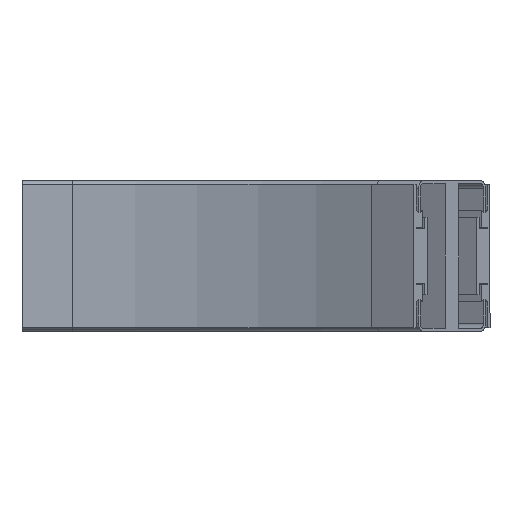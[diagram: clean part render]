
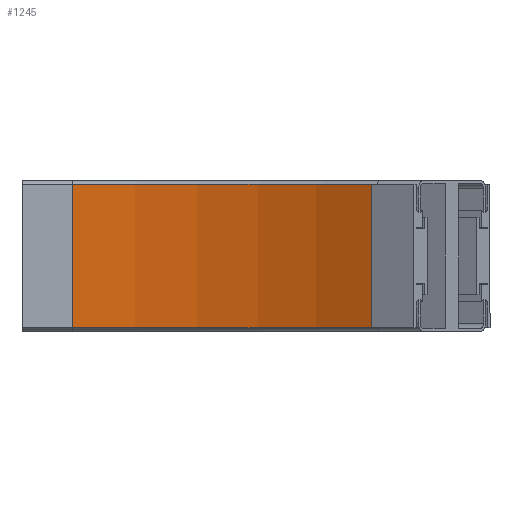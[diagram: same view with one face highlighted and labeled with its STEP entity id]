
A CAD part, front view. The second image highlights one B-rep face of the part: STEP entity #1245.
In plain terms, the highlighted cylindrical face has radius 443.5 mm (diameter 887 mm), a partial arc.
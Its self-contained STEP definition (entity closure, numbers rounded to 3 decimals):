
#95 = VECTOR ( 'NONE', #1447, 1000. ) ;
#249 = FACE_OUTER_BOUND ( 'NONE', #5569, .T. ) ;
#405 = AXIS2_PLACEMENT_3D ( 'NONE', #5106, #2427, #3330 ) ;
#449 = ORIENTED_EDGE ( 'NONE', *, *, #774, .T. ) ;
#621 = DIRECTION ( 'NONE',  ( 1., 0., 0. ) ) ;
#774 = EDGE_CURVE ( 'NONE', #2197, #2886, #3718, .T. ) ;
#918 = CARTESIAN_POINT ( 'NONE',  ( 40., -500., 57.15 ) ) ;
#1015 = CARTESIAN_POINT ( 'NONE',  ( 40., -56.5, 0. ) ) ;
#1245 = ADVANCED_FACE ( 'NONE', ( #249 ), #4685, .F. ) ;
#1285 = CARTESIAN_POINT ( 'NONE',  ( 40., -500., 0. ) ) ;
#1447 = DIRECTION ( 'NONE',  ( 0., 0., -1. ) ) ;
#1501 = DIRECTION ( 'NONE',  ( 0., 0., 1. ) ) ;
#1914 = EDGE_CURVE ( 'NONE', #2951, #2197, #2222, .T. ) ;
#2116 = DIRECTION ( 'NONE',  ( 0., 0., 1. ) ) ;
#2197 = VERTEX_POINT ( 'NONE', #4730 ) ;
#2222 = LINE ( 'NONE', #2381, #4812 ) ;
#2320 = AXIS2_PLACEMENT_3D ( 'NONE', #918, #4819, #621 ) ;
#2381 = CARTESIAN_POINT ( 'NONE',  ( 278.292, -125.956, -57.15 ) ) ;
#2427 = DIRECTION ( 'NONE',  ( 0., 0., 1. ) ) ;
#2886 = VERTEX_POINT ( 'NONE', #4884 ) ;
#2899 = ORIENTED_EDGE ( 'NONE', *, *, #3682, .F. ) ;
#2931 = ORIENTED_EDGE ( 'NONE', *, *, #1914, .T. ) ;
#2951 = VERTEX_POINT ( 'NONE', #3635 ) ;
#3167 = AXIS2_PLACEMENT_3D ( 'NONE', #1285, #2116, #5654 ) ;
#3292 = CIRCLE ( 'NONE', #405, 443.5 ) ;
#3313 = VERTEX_POINT ( 'NONE', #5251 ) ;
#3330 = DIRECTION ( 'NONE',  ( 1., 0., 0. ) ) ;
#3567 = EDGE_CURVE ( 'NONE', #2886, #3313, #3690, .T. ) ;
#3635 = CARTESIAN_POINT ( 'NONE',  ( 278.292, -125.956, -57.15 ) ) ;
#3682 = EDGE_CURVE ( 'NONE', #2951, #3313, #3292, .T. ) ;
#3690 = LINE ( 'NONE', #1015, #95 ) ;
#3718 = CIRCLE ( 'NONE', #2320, 443.5 ) ;
#4226 = ORIENTED_EDGE ( 'NONE', *, *, #3567, .T. ) ;
#4685 = CYLINDRICAL_SURFACE ( 'NONE', #3167, 443.5 ) ;
#4730 = CARTESIAN_POINT ( 'NONE',  ( 278.292, -125.956, 57.15 ) ) ;
#4812 = VECTOR ( 'NONE', #1501, 1000. ) ;
#4819 = DIRECTION ( 'NONE',  ( 0., 0., 1. ) ) ;
#4884 = CARTESIAN_POINT ( 'NONE',  ( 40., -56.5, 57.15 ) ) ;
#5106 = CARTESIAN_POINT ( 'NONE',  ( 40., -500., -57.15 ) ) ;
#5251 = CARTESIAN_POINT ( 'NONE',  ( 40., -56.5, -57.15 ) ) ;
#5569 = EDGE_LOOP ( 'NONE', ( #4226, #2899, #2931, #449 ) ) ;
#5654 = DIRECTION ( 'NONE',  ( 1., 0., 0. ) ) ;
